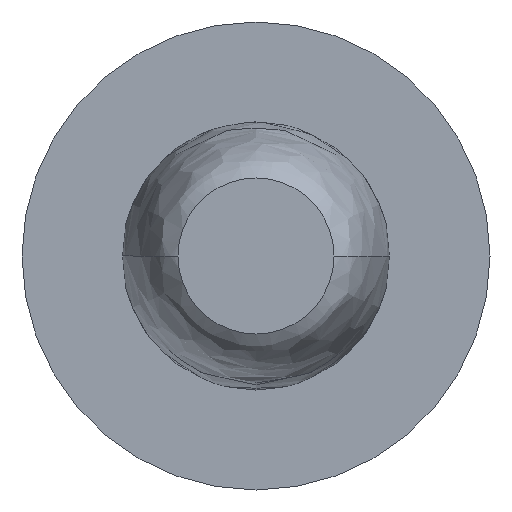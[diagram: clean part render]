
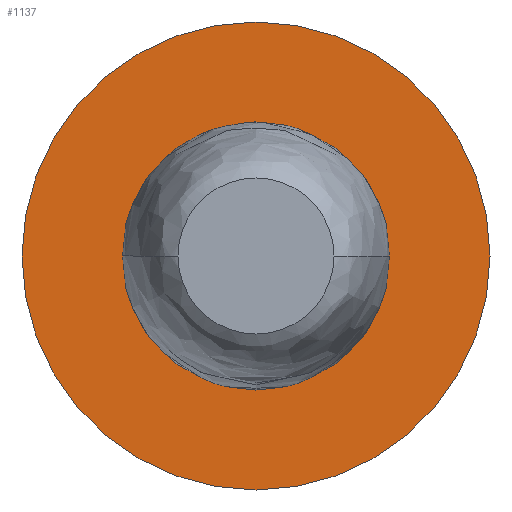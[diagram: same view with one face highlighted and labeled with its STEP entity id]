
A CAD part, front view. The second image highlights one B-rep face of the part: STEP entity #1137.
In plain terms, the highlighted planar face has unit normal (0, -1, 0).
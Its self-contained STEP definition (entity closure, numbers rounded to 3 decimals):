
#7 = DIRECTION ( 'NONE',  ( 0., -1., 0. ) ) ;
#11 = AXIS2_PLACEMENT_3D ( 'NONE', #148, #36, #154 ) ;
#12 = DIRECTION ( 'NONE',  ( 0., 0., -1. ) ) ;
#29 = CIRCLE ( 'NONE', #1218, 7.5 ) ;
#36 = DIRECTION ( 'NONE',  ( 0., 1., 0. ) ) ;
#62 = EDGE_LOOP ( 'NONE', ( #133, #1348 ) ) ;
#94 = EDGE_LOOP ( 'NONE', ( #692, #936 ) ) ;
#123 = CARTESIAN_POINT ( 'NONE',  ( 822.943, 500.51, 182.5 ) ) ;
#133 = ORIENTED_EDGE ( 'NONE', *, *, #1244, .F. ) ;
#139 = CARTESIAN_POINT ( 'NONE',  ( 822.943, 500.51, -7.5 ) ) ;
#148 = CARTESIAN_POINT ( 'NONE',  ( 830.443, 500.51, 0. ) ) ;
#154 = DIRECTION ( 'NONE',  ( 0., 0., 1. ) ) ;
#167 = CARTESIAN_POINT ( 'NONE',  ( 822.943, 500.51, -182.5 ) ) ;
#262 = AXIS2_PLACEMENT_3D ( 'NONE', #821, #499, #601 ) ;
#308 = CARTESIAN_POINT ( 'NONE',  ( 822.943, 500.51, 0. ) ) ;
#387 = AXIS2_PLACEMENT_3D ( 'NONE', #1104, #1001, #994 ) ;
#405 = EDGE_CURVE ( 'NONE', #719, #1063, #580, .T. ) ;
#437 = CIRCLE ( 'NONE', #1309, 182.5 ) ;
#464 = FACE_BOUND ( 'NONE', #62, .T. ) ;
#499 = DIRECTION ( 'NONE',  ( 0., -1., 0. ) ) ;
#580 = CIRCLE ( 'NONE', #262, 182.5 ) ;
#601 = DIRECTION ( 'NONE',  ( 0., 0., -1. ) ) ;
#646 = PLANE ( 'NONE',  #11 ) ;
#692 = ORIENTED_EDGE ( 'NONE', *, *, #1300, .T. ) ;
#719 = VERTEX_POINT ( 'NONE', #123 ) ;
#804 = CARTESIAN_POINT ( 'NONE',  ( 822.943, 500.51, 7.5 ) ) ;
#821 = CARTESIAN_POINT ( 'NONE',  ( 822.943, 500.51, 0. ) ) ;
#859 = CIRCLE ( 'NONE', #387, 7.5 ) ;
#934 = VERTEX_POINT ( 'NONE', #804 ) ;
#936 = ORIENTED_EDGE ( 'NONE', *, *, #405, .T. ) ;
#994 = DIRECTION ( 'NONE',  ( 0., 0., -1. ) ) ;
#1000 = FACE_OUTER_BOUND ( 'NONE', #94, .T. ) ;
#1001 = DIRECTION ( 'NONE',  ( 0., -1., 0. ) ) ;
#1063 = VERTEX_POINT ( 'NONE', #167 ) ;
#1104 = CARTESIAN_POINT ( 'NONE',  ( 822.943, 500.51, 0. ) ) ;
#1131 = EDGE_CURVE ( 'NONE', #934, #1238, #859, .T. ) ;
#1137 = ADVANCED_FACE ( 'NONE', ( #464, #1000 ), #646, .F. ) ;
#1218 = AXIS2_PLACEMENT_3D ( 'NONE', #1250, #1258, #12 ) ;
#1238 = VERTEX_POINT ( 'NONE', #139 ) ;
#1244 = EDGE_CURVE ( 'NONE', #1238, #934, #29, .T. ) ;
#1250 = CARTESIAN_POINT ( 'NONE',  ( 822.943, 500.51, 0. ) ) ;
#1254 = DIRECTION ( 'NONE',  ( 0., 0., -1. ) ) ;
#1258 = DIRECTION ( 'NONE',  ( 0., -1., 0. ) ) ;
#1300 = EDGE_CURVE ( 'NONE', #1063, #719, #437, .T. ) ;
#1309 = AXIS2_PLACEMENT_3D ( 'NONE', #308, #7, #1254 ) ;
#1348 = ORIENTED_EDGE ( 'NONE', *, *, #1131, .F. ) ;
